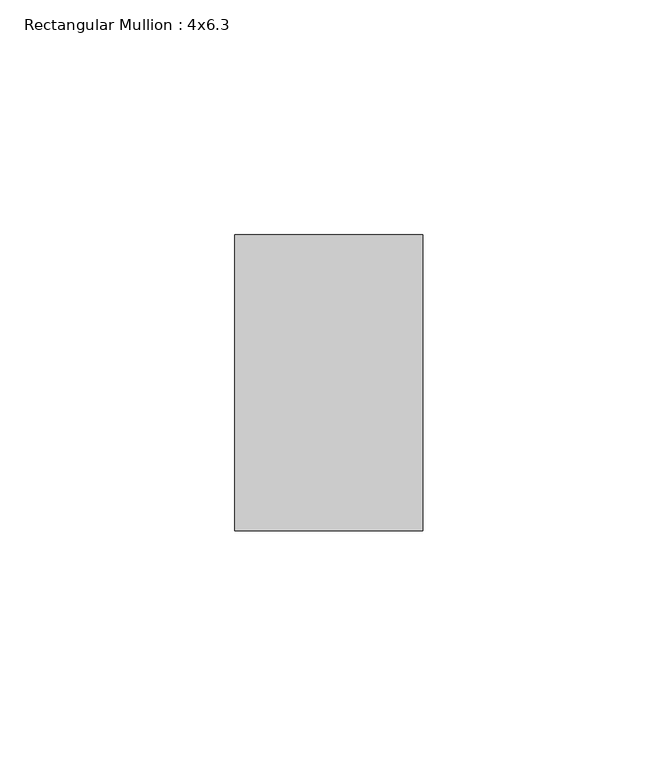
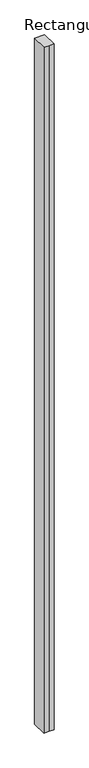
"""IFC4 building model written with IfcOpenShell, lengths in millimetres: member geometry, Rectangular Mullion : 4x6.3."""

import ifcopenshell
import ifcopenshell.guid

model = None  # the IFC model being written
_history = None  # IfcOwnerHistory: only IFC2X3 demands one
_inside = {}  # id of a spatial element -> (the spatial element, [elements in it])
_under = {}  # id of a project, library or spatial element -> (it, [spatial elements below it])
_declared = {}  # id of a project -> (the project, [libraries it declares])
_typed = {}  # id of a type object -> (the type object, [elements of that type])
_made_of = {}  # id of a material, layer set ... -> (it, [elements and type objects made of it])


def new_model(schema):
    """Start an empty IFC model of exactly this schema.

    Asked for "IFC4X3", IfcOpenShell would pick the latest addendum, in which some entities
    have other attributes; the version numbers below select the first issue.
    IFC2X3 requires an IfcOwnerHistory on every rooted entity: one is made here for all.
    """
    global model, _history
    if schema == "IFC4X3":
        model = ifcopenshell.file(schema_version=(4, 3, 0, 0))
    else:
        model = ifcopenshell.file(schema=schema)
    _inside.clear()
    _under.clear()
    _declared.clear()
    _typed.clear()
    _made_of.clear()
    _history = None
    if model.schema == "IFC2X3":
        org = make("IfcOrganization", Name="unknown")
        user = make(
            "IfcPersonAndOrganization",
            ThePerson=make("IfcPerson", FamilyName="unknown"),
            TheOrganization=org,
        )
        app = make(
            "IfcApplication",
            ApplicationDeveloper=org,
            Version="unknown",
            ApplicationFullName="unknown",
            ApplicationIdentifier="unknown",
        )
        _history = make(
            "IfcOwnerHistory",
            OwningUser=user,
            OwningApplication=app,
            ChangeAction="ADDED",
            CreationDate=0,
        )
    return model


def make(cls, **values):
    """One entity of the class cls with the attributes given. An attribute that is None is left unset."""
    return model.create_entity(
        cls, **{name: value for name, value in values.items() if value is not None}
    )


def rooted(cls, **values):
    """An entity with a GlobalId (a new one), such as an element, a storey or a relation."""
    return make(cls, GlobalId=ifcopenshell.guid.new(), OwnerHistory=_history, **values)


def si_unit(unit_type, name, prefix=None):
    """IfcSIUnit, for example si_unit("LENGTHUNIT", "METRE", prefix="MILLI")."""
    return make("IfcSIUnit", UnitType=unit_type, Prefix=prefix, Name=name)


def assignment(units):
    """IfcUnitAssignment: the units of a project."""
    return None if units is None else make("IfcUnitAssignment", Units=units)


def point(xyz):
    """IfcCartesianPoint."""
    return None if xyz is None else make("IfcCartesianPoint", Coordinates=xyz)


def direction(xyz):
    """IfcDirection."""
    return None if xyz is None else make("IfcDirection", DirectionRatios=xyz)


def frame(location, z_axis=None, x_axis=None):
    """IfcAxis2Placement3D, a coordinate frame: its origin and axes. An axis left out is left unset."""
    return make(
        "IfcAxis2Placement3D",
        Location=point(location),
        Axis=direction(z_axis),
        RefDirection=direction(x_axis),
    )


def origin():
    """The frame at (0, 0, 0) with its axes left unset."""
    return frame((0.0, 0.0, 0.0))


def place(relative_to, where):
    """IfcLocalPlacement: puts the frame where relative to a parent placement (None: the world)."""
    return make(
        "IfcLocalPlacement", PlacementRelTo=relative_to, RelativePlacement=where
    )


def context(
    kind, dimensions, precision=None, world=None, true_north=None, identifier=None
):
    """IfcGeometricRepresentationContext, for example the 3D "Model" context."""
    return make(
        "IfcGeometricRepresentationContext",
        ContextIdentifier=identifier,
        ContextType=kind,
        CoordinateSpaceDimension=dimensions,
        Precision=precision,
        WorldCoordinateSystem=world,
        TrueNorth=true_north,
    )


def project(units=None, contexts=None):
    """IfcProject with its units and contexts."""
    return rooted(
        "IfcProject",
        Name="project",
        RepresentationContexts=contexts,
        UnitsInContext=assignment(units),
    )


def spatial(cls, under=None, at=None, **own):
    """A site, building, storey or space (cls), placed at a placement, below another one or the project."""
    s = rooted(cls, ObjectPlacement=at, **own)
    if under is not None:
        _under.setdefault(under.id(), (under, []))[1].append(s)
    return s


def polyline(points):
    """IfcPolyline through the points."""
    return make("IfcPolyline", Points=[point(p) for p in points])


def outline(outer, holes=None, kind="AREA"):
    """IfcArbitraryClosedProfileDef: a profile drawn as a closed curve; with holes, ...WithVoids."""
    if holes is None:
        return make("IfcArbitraryClosedProfileDef", ProfileType=kind, OuterCurve=outer)
    return make(
        "IfcArbitraryProfileDefWithVoids",
        ProfileType=kind,
        OuterCurve=outer,
        InnerCurves=holes,
    )


def extrude(swept, where, along, depth):
    """IfcExtrudedAreaSolid: the profile swept, set in the frame where, extruded along a direction by depth."""
    return make(
        "IfcExtrudedAreaSolid",
        SweptArea=swept,
        Position=where,
        ExtrudedDirection=direction(along),
        Depth=depth,
    )


def shape(context_of_items, identifier, shape_type, items):
    """IfcShapeRepresentation: the items that make up one representation, for example the "Body"."""
    return make(
        "IfcShapeRepresentation",
        ContextOfItems=context_of_items,
        RepresentationIdentifier=identifier,
        RepresentationType=shape_type,
        Items=items,
    )


def source(mapping_origin, context_of_items, identifier, shape_type, items):
    """IfcRepresentationMap: a shape defined once, which mapped items show again and again."""
    return make(
        "IfcRepresentationMap",
        MappingOrigin=mapping_origin,
        MappedRepresentation=shape(context_of_items, identifier, shape_type, items),
    )


def transform(
    local_origin,
    x_axis=None,
    y_axis=None,
    z_axis=None,
    scale=None,
    scale2=None,
    scale3=None,
    uniform=True,
):
    """IfcCartesianTransformationOperator3D, or its non-uniform kind. x_axis, y_axis, z_axis: its Axis1, 2, 3."""
    if uniform:
        return make(
            "IfcCartesianTransformationOperator3D",
            Axis1=direction(x_axis),
            Axis2=direction(y_axis),
            LocalOrigin=point(local_origin),
            Scale=scale,
            Axis3=direction(z_axis),
        )
    return make(
        "IfcCartesianTransformationOperator3DnonUniform",
        Axis1=direction(x_axis),
        Axis2=direction(y_axis),
        LocalOrigin=point(local_origin),
        Scale=scale,
        Axis3=direction(z_axis),
        Scale2=scale2,
        Scale3=scale3,
    )


def mapped(mapping_source, mapping_target):
    """IfcMappedItem: shows the shape of a source again, moved by a transform."""
    return make(
        "IfcMappedItem", MappingSource=mapping_source, MappingTarget=mapping_target
    )


def made_of(thing, what):
    """Note that an element or type object is made of a material, layer set ...; save() writes the relation."""
    if what is not None:
        _made_of.setdefault(what.id(), (what, []))[1].append(thing)
    return thing


def element(
    cls,
    number,
    at=None,
    inside=None,
    cuts=None,
    type_object=None,
    material=None,
    context=None,
    identifier="Body",
    shape_type=None,
    held_by="IfcProductDefinitionShape",
    body=None,
    shapes=None,
    **own,
):
    """One element of the class cls, such as IfcWall. Its Tag is "e" and its number.

    at: its placement. inside: the storey or other place that contains it. cuts: it is an
    opening in that element (IfcRelVoidsElement). A single representation is given by context,
    identifier, shape_type and body (its items); several are given by shapes. held_by: the class
    of the entity that holds the representations. save() writes the other relations.
    """
    e = rooted(cls, Tag="e%d" % number, ObjectPlacement=at, **own)
    if body is not None:
        shapes = [shape(context, identifier, shape_type, body)]
    if shapes is not None:
        e.Representation = make(held_by, Representations=shapes)
    if inside is not None:
        _inside.setdefault(inside.id(), (inside, []))[1].append(e)
    if cuts is not None:
        rooted(
            "IfcRelVoidsElement", RelatingBuildingElement=cuts, RelatedOpeningElement=e
        )
    if type_object is not None:
        _typed.setdefault(type_object.id(), (type_object, []))[1].append(e)
    return made_of(e, material)


def aggregate(whole, parts):
    """IfcRelAggregates: a whole, such as a stair, and the parts it consists of."""
    return rooted("IfcRelAggregates", RelatingObject=whole, RelatedObjects=parts)


def save(model, path):
    """Write the relations noted so far, then the file.

    IfcRelAggregates (storeys below a building ...), IfcRelContainedInSpatialStructure (elements
    in a storey), IfcRelDefinesByType, IfcRelAssociatesMaterial and IfcRelDeclares: one each for
    every whole, place, type object, material and project.
    """
    for whole, parts in _under.values():
        aggregate(whole, parts)
    for where, things in _inside.values():
        rooted(
            "IfcRelContainedInSpatialStructure",
            RelatedElements=things,
            RelatingStructure=where,
        )
    for kind, things in _typed.values():
        rooted("IfcRelDefinesByType", RelatedObjects=things, RelatingType=kind)
    for what, things in _made_of.values():
        rooted("IfcRelAssociatesMaterial", RelatedObjects=things, RelatingMaterial=what)
    for by, libraries in _declared.values():
        rooted("IfcRelDeclares", RelatingContext=by, RelatedDefinitions=libraries)
    model.write(path)


def rectangular_mullion_4x6_3_d6294b29(model_context):
    return source(origin(), model_context, "Body", "SweptSolid", [
        extrude(outline(polyline([(-20.0, 20.0), (-20.0, 83.0), (20.0, 83.0), (20.0, 20.0), (0.0, 20.0), (-20.0, 20.0)])), frame((0.0, 0.0, -2884.756915), z_axis=(0.0, 0.0, 1.0), x_axis=(1.0, 0.0, 0.0)), (0.0, 0.0, 1.0), 2884.756915),
    ])


if __name__ == "__main__":
    model = new_model("IFC4")
    model_context = context("Model", 3, world=origin())
    ifc_project = project(units=[si_unit("LENGTHUNIT", "METRE", prefix="MILLI")], contexts=[model_context])
    site = spatial("IfcSite", under=ifc_project)
    building = spatial("IfcBuilding", under=site)
    placement = place(None, origin())
    rectangular_mullion_4x6_3_shape = rectangular_mullion_4x6_3_d6294b29(model_context)
    element("IfcMember", 1, ObjectType="Rectangular Mullion : 4x6.3", at=placement, inside=building, context=model_context, shape_type="MappedRepresentation", body=[
        mapped(rectangular_mullion_4x6_3_shape, transform((0.0, 0.0, 0.0), x_axis=(1.0, 0.0, 0.0), y_axis=(0.0, 1.0, 0.0), z_axis=(0.0, 0.0, 1.0))),
    ])
    save(model, "model.ifc")
